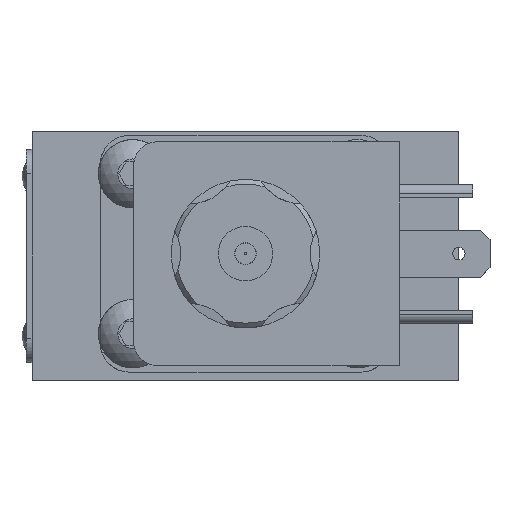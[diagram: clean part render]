
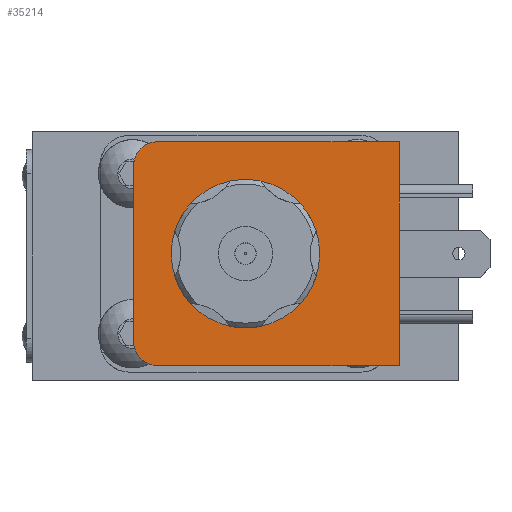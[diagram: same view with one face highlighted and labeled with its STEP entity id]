
A CAD part, left-side view. The second image highlights one B-rep face of the part: STEP entity #35214.
In plain terms, the highlighted planar face has unit normal (-1, 0, 0).
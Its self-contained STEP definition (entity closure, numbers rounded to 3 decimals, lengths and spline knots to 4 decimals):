
#1288=FACE_BOUND('',#6044,.T.);
#2045=PLANE('',#38870);
#3826=FACE_OUTER_BOUND('',#6043,.T.);
#6043=EDGE_LOOP('',(#29384,#29385,#29386,#29387,#29388,#29389));
#6044=EDGE_LOOP('',(#29390));
#6602=CIRCLE('',#35872,0.9957);
#8113=CIRCLE('',#38871,0.3175);
#8114=CIRCLE('',#38872,0.3175);
#10443=LINE('',#63831,#12807);
#10466=LINE('',#63898,#12830);
#10467=LINE('',#63901,#12831);
#10468=LINE('',#63902,#12832);
#12807=VECTOR('',#48045,1.);
#12830=VECTOR('',#48090,1.);
#12831=VECTOR('',#48093,1.);
#12832=VECTOR('',#48094,1.);
#13404=VERTEX_POINT('',#52332);
#15821=VERTEX_POINT('',#63827);
#15823=VERTEX_POINT('',#63830);
#15854=VERTEX_POINT('',#63894);
#15855=VERTEX_POINT('',#63895);
#15856=VERTEX_POINT('',#63897);
#15857=VERTEX_POINT('',#63899);
#16645=EDGE_CURVE('',#13404,#13404,#6602,.T.);
#20430=EDGE_CURVE('',#15823,#15821,#10443,.T.);
#20462=EDGE_CURVE('',#15854,#15855,#8113,.T.);
#20463=EDGE_CURVE('',#15856,#15854,#10466,.T.);
#20464=EDGE_CURVE('',#15857,#15856,#8114,.T.);
#20465=EDGE_CURVE('',#15857,#15823,#10467,.T.);
#20466=EDGE_CURVE('',#15855,#15821,#10468,.T.);
#29384=ORIENTED_EDGE('',*,*,#20462,.F.);
#29385=ORIENTED_EDGE('',*,*,#20463,.F.);
#29386=ORIENTED_EDGE('',*,*,#20464,.F.);
#29387=ORIENTED_EDGE('',*,*,#20465,.T.);
#29388=ORIENTED_EDGE('',*,*,#20430,.T.);
#29389=ORIENTED_EDGE('',*,*,#20466,.F.);
#29390=ORIENTED_EDGE('',*,*,#16645,.T.);
#35214=ADVANCED_FACE('',(#3826,#1288),#2045,.T.);
#35872=AXIS2_PLACEMENT_3D('',#52333,#40151,#40152);
#38870=AXIS2_PLACEMENT_3D('',#63893,#48086,#48087);
#38871=AXIS2_PLACEMENT_3D('',#63896,#48088,#48089);
#38872=AXIS2_PLACEMENT_3D('',#63900,#48091,#48092);
#40151=DIRECTION('center_axis',(1.,0.,0.));
#40152=DIRECTION('ref_axis',(0.,0.,
-1.));
#48045=DIRECTION('',(0.,0.,1.));
#48086=DIRECTION('center_axis',(-1.,0.,0.));
#48087=DIRECTION('ref_axis',(0.,-1.,0.));
#48088=DIRECTION('center_axis',(1.,0.,0.));
#48089=DIRECTION('ref_axis',(0.,0.707,0.707));
#48090=DIRECTION('',(0.,0.,1.));
#48091=DIRECTION('center_axis',(1.,0.,0.));
#48092=DIRECTION('ref_axis',(0.,0.707,-0.707));
#48093=DIRECTION('',(0.,-1.,0.));
#48094=DIRECTION('',(0.,-1.,0.));
#52332=CARTESIAN_POINT('',(-9.8649,-0.0037,1.0268));
#52333=CARTESIAN_POINT('Origin',(-9.8649,-0.0037,0.0311));
#63827=CARTESIAN_POINT('',(-9.8649,-2.0651,1.5311));
#63830=CARTESIAN_POINT('',(-9.8649,-2.0651,-1.4689));
#63831=CARTESIAN_POINT('',(-9.8649,-2.0651,-1.4689));
#63893=CARTESIAN_POINT('Origin',(-9.8649,1.4949,-1.4689));
#63894=CARTESIAN_POINT('',(-9.8649,1.4949,1.2136));
#63895=CARTESIAN_POINT('',(-9.8649,1.1774,1.5311));
#63896=CARTESIAN_POINT('Origin',(-9.8649,1.1774,1.2136));
#63897=CARTESIAN_POINT('',(-9.8649,1.4949,-1.1514));
#63898=CARTESIAN_POINT('',(-9.8649,1.4949,-1.4689));
#63899=CARTESIAN_POINT('',(-9.8649,1.1774,-1.4689));
#63900=CARTESIAN_POINT('Origin',(-9.8649,1.1774,-1.1514));
#63901=CARTESIAN_POINT('',(-9.8649,1.4949,-1.4689));
#63902=CARTESIAN_POINT('',(-9.8649,1.4949,1.5311));
